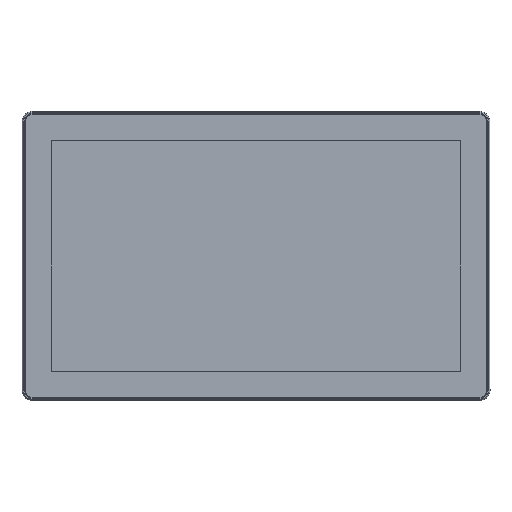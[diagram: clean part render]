
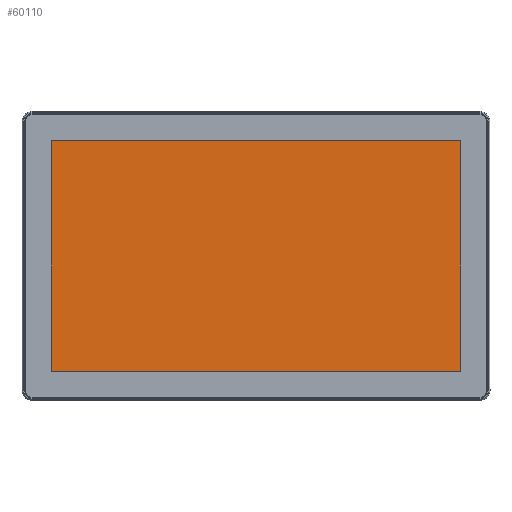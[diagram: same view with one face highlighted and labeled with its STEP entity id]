
A CAD part, top view. The second image highlights one B-rep face of the part: STEP entity #60110.
In plain terms, the highlighted planar face has unit normal (0, 0, 1).
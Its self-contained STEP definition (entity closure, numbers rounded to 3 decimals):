
#1056=PLANE('',#63771);
#2969=LINE('',#85764,#8227);
#2973=LINE('',#85772,#8231);
#2976=LINE('',#85778,#8234);
#2979=LINE('',#85783,#8237);
#8227=VECTOR('',#68932,10.);
#8231=VECTOR('',#68938,10.);
#8234=VECTOR('',#68943,10.);
#8237=VECTOR('',#68948,10.);
#14267=FACE_OUTER_BOUND('',#17582,.T.);
#17582=EDGE_LOOP('',(#40680,#40681,#40682,#40683));
#24901=VERTEX_POINT('',#85762);
#24902=VERTEX_POINT('',#85763);
#24905=VERTEX_POINT('',#85771);
#24907=VERTEX_POINT('',#85777);
#30965=EDGE_CURVE('',#24901,#24902,#2969,.T.);
#30969=EDGE_CURVE('',#24902,#24905,#2973,.T.);
#30972=EDGE_CURVE('',#24905,#24907,#2976,.T.);
#30975=EDGE_CURVE('',#24907,#24901,#2979,.T.);
#40680=ORIENTED_EDGE('',*,*,#30965,.T.);
#40681=ORIENTED_EDGE('',*,*,#30969,.T.);
#40682=ORIENTED_EDGE('',*,*,#30972,.T.);
#40683=ORIENTED_EDGE('',*,*,#30975,.T.);
#60110=ADVANCED_FACE('',(#14267),#1056,.T.);
#63771=AXIS2_PLACEMENT_3D('',#85785,#68950,#68951);
#68932=DIRECTION('',(0.,-1.,0.));
#68938=DIRECTION('',(1.,0.,0.));
#68943=DIRECTION('',(0.,1.,0.));
#68948=DIRECTION('',(-1.,0.,0.));
#68950=DIRECTION('center_axis',(0.,0.,
1.));
#68951=DIRECTION('ref_axis',(1.,0.,0.));
#85762=CARTESIAN_POINT('',(-238.4,134.15,1.091));
#85763=CARTESIAN_POINT('',(-238.4,-134.15,1.091));
#85764=CARTESIAN_POINT('',(-238.4,-134.15,1.091));
#85771=CARTESIAN_POINT('',(238.4,-134.15,1.091));
#85772=CARTESIAN_POINT('',(238.4,-134.15,1.091));
#85777=CARTESIAN_POINT('',(238.4,134.15,1.091));
#85778=CARTESIAN_POINT('',(238.4,134.15,1.091));
#85783=CARTESIAN_POINT('',(-238.4,134.15,1.091));
#85785=CARTESIAN_POINT('Origin',(0.,0.,
1.091));
